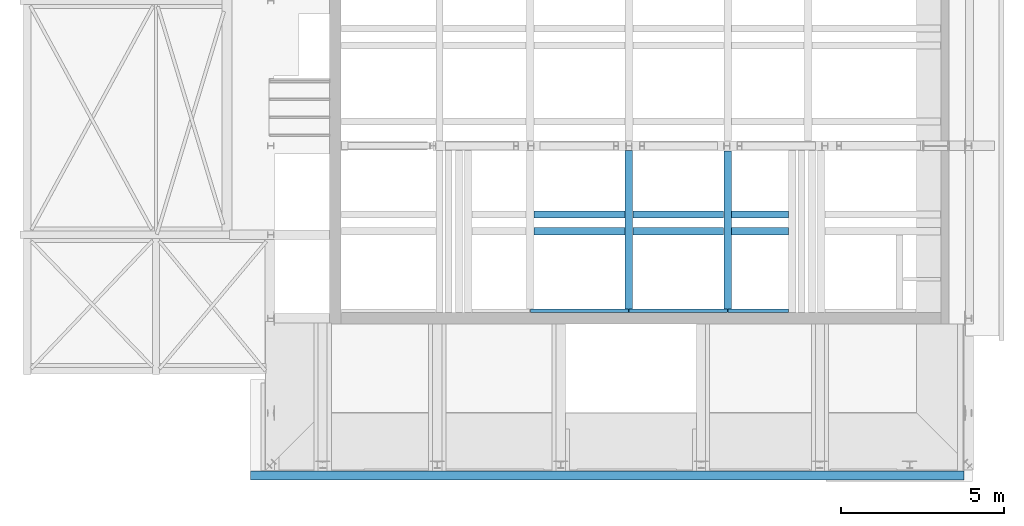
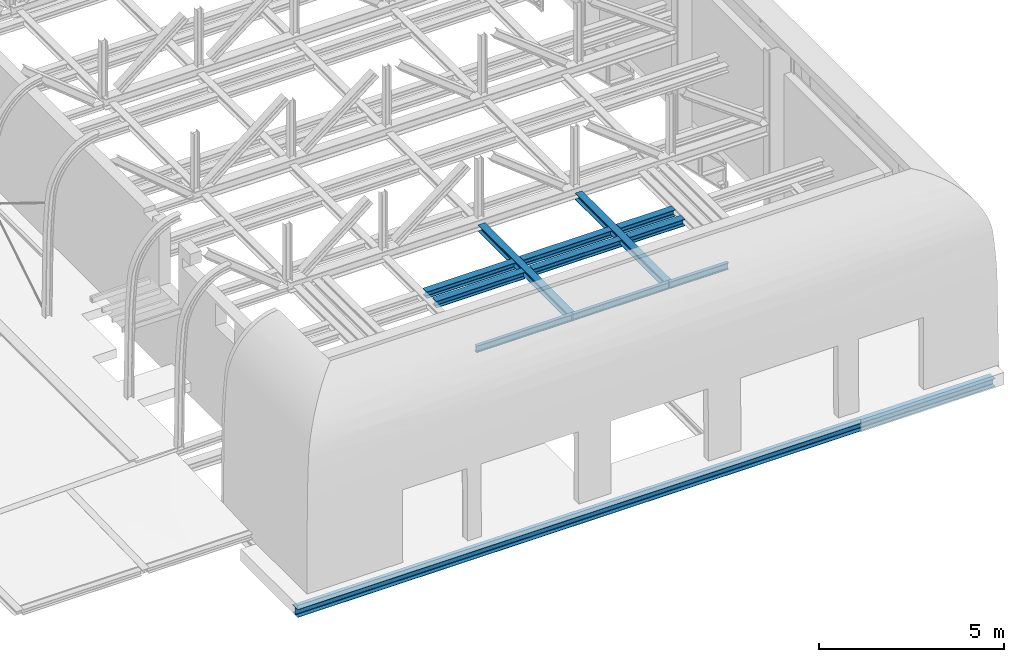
# One storey, part 10 of 29: 12 beams.
"""IFC2X3 building model written with IfcOpenShell, lengths in millimetres."""

from ifc_helpers import new_model, entity, si_unit, converted_unit, derived_unit, direction, frame, frame_2d, origin, place, context, subcontext, project, spatial, polyline, circle_curve, parameter, trimmed, segment, composite_curve, outline, extrude, material, type_object, element, save


model = new_model("IFC2X3")

# Units and contexts
model_context = context("Model", 3, precision=0.01, world=origin(), true_north=direction((6.12303176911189e-17, 1.0)))
body_context = subcontext(model_context, "Body", "Model", "MODEL_VIEW")
ifc_project = project(units=[si_unit("LENGTHUNIT", "METRE", prefix="MILLI"), si_unit("AREAUNIT", "SQUARE_METRE", prefix="MILLI"), si_unit("VOLUMEUNIT", "CUBIC_METRE"), converted_unit("PLANEANGLEUNIT", "DEGREE", entity("IfcRatioMeasure", 0.0174532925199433), si_unit("PLANEANGLEUNIT", "RADIAN"), dimensions=[0, 0, 0, 0, 0, 0, 0]), si_unit("MASSUNIT", "GRAM", prefix="KILO"), derived_unit("MASSDENSITYUNIT", [(si_unit("MASSUNIT", "GRAM", prefix="KILO"), 1), (si_unit("LENGTHUNIT", "METRE"), -3)]), derived_unit("MOMENTOFINERTIAUNIT", [(si_unit("LENGTHUNIT", "METRE"), 4)]), si_unit("TIMEUNIT", "SECOND"), si_unit("FREQUENCYUNIT", "HERTZ"), si_unit("THERMODYNAMICTEMPERATUREUNIT", "DEGREE_CELSIUS"), derived_unit("THERMALTRANSMITTANCEUNIT", [(si_unit("MASSUNIT", "GRAM", prefix="KILO"), 1), (si_unit("THERMODYNAMICTEMPERATUREUNIT", "KELVIN"), -1), (si_unit("TIMEUNIT", "SECOND"), -3)]), derived_unit("VOLUMETRICFLOWRATEUNIT", [(si_unit("LENGTHUNIT", "METRE"), 3), (si_unit("TIMEUNIT", "SECOND"), -1)]), si_unit("ELECTRICCURRENTUNIT", "AMPERE"), si_unit("ELECTRICVOLTAGEUNIT", "VOLT"), si_unit("POWERUNIT", "WATT"), si_unit("FORCEUNIT", "NEWTON", prefix="KILO"), si_unit("ILLUMINANCEUNIT", "LUX"), si_unit("LUMINOUSFLUXUNIT", "LUMEN"), si_unit("LUMINOUSINTENSITYUNIT", "CANDELA"), derived_unit("USERDEFINED", [(si_unit("MASSUNIT", "GRAM", prefix="KILO"), -1), (si_unit("LENGTHUNIT", "METRE"), -2), (si_unit("TIMEUNIT", "SECOND"), 3), (si_unit("LUMINOUSFLUXUNIT", "LUMEN"), 1)]), derived_unit("LINEARVELOCITYUNIT", [(si_unit("LENGTHUNIT", "METRE"), 1), (si_unit("TIMEUNIT", "SECOND"), -1)]), si_unit("PRESSUREUNIT", "PASCAL"), derived_unit("USERDEFINED", [(si_unit("LENGTHUNIT", "METRE"), -2), (si_unit("MASSUNIT", "GRAM", prefix="KILO"), 1), (si_unit("TIMEUNIT", "SECOND"), -2)]), derived_unit("LINEARFORCEUNIT", [(si_unit("MASSUNIT", "GRAM", prefix="KILO"), 1), (si_unit("LENGTHUNIT", "METRE"), 1), (si_unit("TIMEUNIT", "SECOND"), -2), (si_unit("LENGTHUNIT", "METRE"), -1)]), derived_unit("PLANARFORCEUNIT", [(si_unit("MASSUNIT", "GRAM", prefix="KILO"), 1), (si_unit("LENGTHUNIT", "METRE"), 1), (si_unit("TIMEUNIT", "SECOND"), -2), (si_unit("LENGTHUNIT", "METRE"), -2)])], contexts=[model_context])

# Site, building, storey
site_placement = place(None, origin())
site = spatial("IfcSite", under=ifc_project, at=site_placement, Name="Theater aan de Parade", CompositionType="ELEMENT")
building_placement = place(site_placement, origin())
building = spatial("IfcBuilding", under=site, at=building_placement, Name="Theater aan de Parade", CompositionType="ELEMENT")
storey_placement = place(building_placement, frame((0.0, 0.0, 20300.0)))
storey = spatial("IfcBuildingStorey", under=building, at=storey_placement, Name="05 vijfde verdieping", CompositionType="ELEMENT", Elevation=20300.0)

# Beams
ifc_material = material(Name="00_PBT_MAT_staal_S355")
beam_type_1 = type_object("IfcBeamType", Name="28_PBT_SF_staal_H-profiel:S355_HE220B", PredefinedType="NOTDEFINED")
beam_1_placement = place(storey_placement, frame((76509.4104367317, 19810.0002435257, 0.0), z_axis=(0.0, 0.0, 1.0), x_axis=(0.0, 1.0, 0.0)))
element("IfcBeam", 1, at=beam_1_placement, inside=storey, type_object=beam_type_1, material=ifc_material, Name="28_PBT_SF_staal_H-profiel:S355_HE220B", ObjectType="28_PBT_SF_staal_H-profiel:S355_HE220B", context=body_context, shape_type="SweptSolid", body=[
    extrude(outline(composite_curve([segment(polyline([(94.0, -110.0), (110.0, -110.0)]), True, "CONTINUOUS"), segment(polyline([(110.0, -110.0), (110.0, 110.0)]), True, "CONTINUOUS"), segment(polyline([(110.0, 110.0), (94.0, 110.0)]), True, "CONTINUOUS"), segment(polyline([(94.0, 110.0), (94.0, 22.7499999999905)]), True, "CONTINUOUS"), segment(trimmed(circle_curve(frame_2d((76.0, 22.7499999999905), x_axis=(1.0, 0.0)), 17.9999999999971), [parameter(269.999999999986)], [parameter(0.0)], True, "PARAMETER"), False, "CONTINUOUS"), segment(polyline([(76.0, 4.74999999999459), (-76.0, 4.74999999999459)]), True, "CONTINUOUS"), segment(trimmed(circle_curve(frame_2d((-76.0, 22.7499999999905), x_axis=(0.0, -1.0)), 17.9999999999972), [parameter(269.999999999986)], [parameter(0.0)], True, "PARAMETER"), False, "CONTINUOUS"), segment(polyline([(-94.0, 22.7499999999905), (-94.0, 110.0)]), True, "CONTINUOUS"), segment(polyline([(-94.0, 110.0), (-110.0, 110.0)]), True, "CONTINUOUS"), segment(polyline([(-110.0, 110.0), (-110.0, -110.0)]), True, "CONTINUOUS"), segment(polyline([(-110.0, -110.0), (-94.0, -110.0)]), True, "CONTINUOUS"), segment(polyline([(-94.0, -110.0), (-94.0, -22.7500000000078)]), True, "CONTINUOUS"), segment(trimmed(circle_curve(frame_2d((-76.0, -22.7500000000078), x_axis=(-1.0, 0.0)), 17.9999999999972), [parameter(269.999999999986)], [parameter(0.0)], True, "PARAMETER"), False, "CONTINUOUS"), segment(polyline([(-76.0, -4.75000000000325), (76.0, -4.75000000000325)]), True, "CONTINUOUS"), segment(trimmed(circle_curve(frame_2d((76.0, -22.7500000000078), x_axis=(0.0, 1.0)), 17.9999999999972), [parameter(269.999999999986)], [parameter(0.0)], True, "PARAMETER"), False, "CONTINUOUS"), segment(polyline([(94.0, -22.7500000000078), (94.0, -110.0)]), True, "CONTINUOUS")], self_intersect=False)), frame((0.0, 0.0, 2360.0), z_axis=(1.0, 0.0, 0.0), x_axis=(0.0, 0.0, -1.0)), (0.0, 0.0, 1.0), 4949.99975647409),
])
beam_2_placement = place(storey_placement, frame((79535.4618819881, 19825.0002435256, 0.0), z_axis=(0.0, 0.0, 1.0), x_axis=(0.0, 1.0, 0.0)))
element("IfcBeam", 2, at=beam_2_placement, inside=storey, type_object=beam_type_1, material=ifc_material, Name="28_PBT_SF_staal_H-profiel:S355_HE220B", ObjectType="28_PBT_SF_staal_H-profiel:S355_HE220B", context=body_context, shape_type="SweptSolid", body=[
    extrude(outline(composite_curve([segment(polyline([(94.0, -110.0), (110.0, -110.0)]), True, "CONTINUOUS"), segment(polyline([(110.0, -110.0), (110.0, 110.0)]), True, "CONTINUOUS"), segment(polyline([(110.0, 110.0), (94.0, 110.0)]), True, "CONTINUOUS"), segment(polyline([(94.0, 110.0), (94.0, 22.7500000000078)]), True, "CONTINUOUS"), segment(trimmed(circle_curve(frame_2d((76.0, 22.7500000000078), x_axis=(1.0, 0.0)), 17.9999999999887), [parameter(269.999999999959)], [parameter(0.0)], True, "PARAMETER"), False, "CONTINUOUS"), segment(polyline([(76.0, 4.74999999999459), (-76.0, 4.74999999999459)]), True, "CONTINUOUS"), segment(trimmed(circle_curve(frame_2d((-76.0, 22.7500000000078), x_axis=(0.0, -1.0)), 17.9999999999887), [parameter(269.999999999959)], [parameter(0.0)], True, "PARAMETER"), False, "CONTINUOUS"), segment(polyline([(-94.0, 22.7500000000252), (-94.0, 110.0)]), True, "CONTINUOUS"), segment(polyline([(-94.0, 110.0), (-110.0, 110.0)]), True, "CONTINUOUS"), segment(polyline([(-110.0, 110.0), (-110.0, -110.0)]), True, "CONTINUOUS"), segment(polyline([(-110.0, -110.0), (-94.0, -110.0)]), True, "CONTINUOUS"), segment(polyline([(-94.0, -110.0), (-94.0, -22.7499999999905)]), True, "CONTINUOUS"), segment(trimmed(circle_curve(frame_2d((-76.0, -22.7499999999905), x_axis=(-1.0, 0.0)), 17.9999999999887), [parameter(269.999999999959)], [parameter(0.0)], True, "PARAMETER"), False, "CONTINUOUS"), segment(polyline([(-76.0, -4.74999999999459), (76.0, -4.74999999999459)]), True, "CONTINUOUS"), segment(trimmed(circle_curve(frame_2d((76.0, -22.7499999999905), x_axis=(0.0, 1.0)), 17.9999999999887), [parameter(269.999999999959)], [parameter(0.0)], True, "PARAMETER"), False, "CONTINUOUS"), segment(polyline([(94.0, -22.7499999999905), (94.0, -110.0)]), True, "CONTINUOUS")], self_intersect=False)), frame((0.0, 0.0, 2360.0), z_axis=(1.0, 0.0, 0.0), x_axis=(0.0, 0.0, -1.0)), (0.0, 0.0, 1.0), 4919.99975647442),
])
beam_3_placement = place(storey_placement, frame((76509.4104367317, 22811.5, 0.0), z_axis=(0.0, 0.0, 1.0), x_axis=(-1.0, 0.0, 0.0)))
element("IfcBeam", 3, at=beam_3_placement, inside=storey, type_object=beam_type_1, material=ifc_material, Name="28_PBT_SF_staal_H-profiel:S355_HE220B", ObjectType="28_PBT_SF_staal_H-profiel:S355_HE220B", context=body_context, shape_type="SweptSolid", body=[
    extrude(outline(composite_curve([segment(polyline([(94.0, -110.0), (110.0, -110.0)]), True, "CONTINUOUS"), segment(polyline([(110.0, -110.0), (110.0, 110.0)]), True, "CONTINUOUS"), segment(polyline([(110.0, 110.0), (94.0, 110.0)]), True, "CONTINUOUS"), segment(polyline([(94.0, 110.0), (94.0, 22.7500000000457)]), True, "CONTINUOUS"), segment(trimmed(circle_curve(frame_2d((76.0, 22.750000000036), x_axis=(1.0, 0.0)), 18.0000000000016), [parameter(270.0)], [parameter(0.0)], True, "PARAMETER"), False, "CONTINUOUS"), segment(polyline([(76.0, 4.7500000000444), (-76.0, 4.74999999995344)]), True, "CONTINUOUS"), segment(trimmed(circle_curve(frame_2d((-76.0, 22.7499999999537), x_axis=(0.0, -1.0)), 18.0000000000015), [parameter(270.0)], [parameter(0.0)], True, "PARAMETER"), False, "CONTINUOUS"), segment(polyline([(-94.0, 22.7499999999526), (-94.0, 110.0)]), True, "CONTINUOUS"), segment(polyline([(-94.0, 110.0), (-110.0, 110.0)]), True, "CONTINUOUS"), segment(polyline([(-110.0, 110.0), (-110.0, -110.0)]), True, "CONTINUOUS"), segment(polyline([(-110.0, -110.0), (-94.0, -110.0)]), True, "CONTINUOUS"), segment(polyline([(-94.0, -110.0), (-94.0, -22.7500000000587)]), True, "CONTINUOUS"), segment(trimmed(circle_curve(frame_2d((-76.0, -22.750000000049), x_axis=(-1.0, 0.0)), 17.9999999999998), [parameter(270.0)], [parameter(0.0)], True, "PARAMETER"), False, "CONTINUOUS"), segment(polyline([(-76.0, -4.75000000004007), (76.0, -4.74999999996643)]), True, "CONTINUOUS"), segment(trimmed(circle_curve(frame_2d((76.0, -22.7499999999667), x_axis=(0.0, 1.0)), 18.0000000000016), [parameter(270.0)], [parameter(0.0)], True, "PARAMETER"), False, "CONTINUOUS"), segment(polyline([(94.0, -22.7499999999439), (94.0, -110.0)]), True, "CONTINUOUS")], self_intersect=False)), frame((122.699999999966, 0.0, 2360.0), z_axis=(1.0, 0.0, 0.0), x_axis=(0.0, 0.0, -1.0)), (0.0, 0.0, 1.0), 2780.65144525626),
])
beam_4_placement = place(storey_placement, frame((79535.461881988, 22811.5, 0.0), z_axis=(0.0, 0.0, 1.0), x_axis=(-1.0, 0.0, 0.0)))
element("IfcBeam", 4, at=beam_4_placement, inside=storey, type_object=beam_type_1, material=ifc_material, Name="28_PBT_SF_staal_H-profiel:S355_HE220B", ObjectType="28_PBT_SF_staal_H-profiel:S355_HE220B", context=body_context, shape_type="SweptSolid", body=[
    extrude(outline(composite_curve([segment(polyline([(94.0, -110.0), (110.0, -110.0)]), True, "CONTINUOUS"), segment(polyline([(110.0, -110.0), (110.0, 110.0)]), True, "CONTINUOUS"), segment(polyline([(110.0, 110.0), (94.0, 110.0)]), True, "CONTINUOUS"), segment(polyline([(94.0, 110.0), (94.0, 22.7500000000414)]), True, "CONTINUOUS"), segment(trimmed(circle_curve(frame_2d((76.0, 22.7500000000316), x_axis=(1.0, 0.0)), 18.0000000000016), [parameter(270.0)], [parameter(0.0)], True, "PARAMETER"), False, "CONTINUOUS"), segment(polyline([(76.0, 4.75000000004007), (-76.0, 4.74999999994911)]), True, "CONTINUOUS"), segment(trimmed(circle_curve(frame_2d((-76.0, 22.7499999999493), x_axis=(0.0, -1.0)), 18.0000000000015), [parameter(270.0)], [parameter(0.0)], True, "PARAMETER"), False, "CONTINUOUS"), segment(polyline([(-94.0, 22.7499999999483), (-94.0, 110.0)]), True, "CONTINUOUS"), segment(polyline([(-94.0, 110.0), (-110.0, 110.0)]), True, "CONTINUOUS"), segment(polyline([(-110.0, 110.0), (-110.0, -110.0)]), True, "CONTINUOUS"), segment(polyline([(-110.0, -110.0), (-94.0, -110.0)]), True, "CONTINUOUS"), segment(polyline([(-94.0, -110.0), (-94.0, -22.7500000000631)]), True, "CONTINUOUS"), segment(trimmed(circle_curve(frame_2d((-76.0, -22.7500000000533), x_axis=(-1.0, 0.0)), 17.9999999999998), [parameter(270.0)], [parameter(0.0)], True, "PARAMETER"), False, "CONTINUOUS"), segment(polyline([(-76.0, -4.7500000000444), (76.0, -4.74999999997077)]), True, "CONTINUOUS"), segment(trimmed(circle_curve(frame_2d((76.0, -22.749999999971), x_axis=(0.0, 1.0)), 18.0000000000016), [parameter(270.0)], [parameter(0.0)], True, "PARAMETER"), False, "CONTINUOUS"), segment(polyline([(94.0, -22.7499999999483), (94.0, -110.0)]), True, "CONTINUOUS")], self_intersect=False)), frame((122.699999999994, 0.0, 2360.0), z_axis=(1.0, 0.0, 0.0), x_axis=(0.0, 0.0, -1.0)), (0.0, 0.0, 1.0), 2780.65144525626),
])
beam_5_placement = place(storey_placement, frame((81510.0, 22811.5, 0.0), z_axis=(0.0, 0.0, 1.0), x_axis=(-1.0, 0.0, 0.0)))
element("IfcBeam", 5, at=beam_5_placement, inside=storey, type_object=beam_type_1, material=ifc_material, Name="28_PBT_SF_staal_H-profiel:S355_HE220B", ObjectType="28_PBT_SF_staal_H-profiel:S355_HE220B", context=body_context, shape_type="SweptSolid", body=[
    extrude(outline(composite_curve([segment(polyline([(94.0, -110.0), (110.0, -110.0)]), True, "CONTINUOUS"), segment(polyline([(110.0, -110.0), (110.0, 110.0)]), True, "CONTINUOUS"), segment(polyline([(110.0, 110.0), (94.0, 110.0)]), True, "CONTINUOUS"), segment(polyline([(94.0, 110.0), (94.0, 22.7500000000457)]), True, "CONTINUOUS"), segment(trimmed(circle_curve(frame_2d((76.0, 22.750000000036), x_axis=(1.0, 0.0)), 18.0000000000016), [parameter(270.0)], [parameter(0.0)], True, "PARAMETER"), False, "CONTINUOUS"), segment(polyline([(76.0, 4.7500000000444), (-76.0, 4.74999999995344)]), True, "CONTINUOUS"), segment(trimmed(circle_curve(frame_2d((-76.0, 22.7499999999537), x_axis=(0.0, -1.0)), 18.0000000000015), [parameter(270.0)], [parameter(0.0)], True, "PARAMETER"), False, "CONTINUOUS"), segment(polyline([(-94.0, 22.7499999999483), (-94.0, 110.0)]), True, "CONTINUOUS"), segment(polyline([(-94.0, 110.0), (-110.0, 110.0)]), True, "CONTINUOUS"), segment(polyline([(-110.0, 110.0), (-110.0, -110.0)]), True, "CONTINUOUS"), segment(polyline([(-110.0, -110.0), (-94.0, -110.0)]), True, "CONTINUOUS"), segment(polyline([(-94.0, -110.0), (-94.0, -22.7500000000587)]), True, "CONTINUOUS"), segment(trimmed(circle_curve(frame_2d((-76.0, -22.750000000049), x_axis=(-1.0, 0.0)), 17.9999999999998), [parameter(270.0)], [parameter(0.0)], True, "PARAMETER"), False, "CONTINUOUS"), segment(polyline([(-76.0, -4.75000000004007), (76.0, -4.74999999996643)]), True, "CONTINUOUS"), segment(trimmed(circle_curve(frame_2d((76.0, -22.7499999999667), x_axis=(0.0, 1.0)), 18.0000000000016), [parameter(270.0)], [parameter(0.0)], True, "PARAMETER"), False, "CONTINUOUS"), segment(polyline([(94.0, -22.7499999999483), (94.0, -110.0)]), True, "CONTINUOUS")], self_intersect=False)), frame((122.700000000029, 0.0, 2360.0), z_axis=(1.0, 0.0, 0.0), x_axis=(0.0, 0.0, -1.0)), (0.0, 0.0, 1.0), 1729.13811801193),
])
beam_6_placement = place(storey_placement, frame((76509.4104367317, 22297.4998, 0.0), z_axis=(0.0, 0.0, 1.0), x_axis=(-1.0, 0.0, 0.0)))
element("IfcBeam", 6, at=beam_6_placement, inside=storey, type_object=beam_type_1, material=ifc_material, Name="28_PBT_SF_staal_H-profiel:S355_HE220B", ObjectType="28_PBT_SF_staal_H-profiel:S355_HE220B", context=body_context, shape_type="SweptSolid", body=[
    extrude(outline(composite_curve([segment(polyline([(94.0, -110.0), (110.0, -110.0)]), True, "CONTINUOUS"), segment(polyline([(110.0, -110.0), (110.0, 110.0)]), True, "CONTINUOUS"), segment(polyline([(110.0, 110.0), (94.0, 110.0)]), True, "CONTINUOUS"), segment(polyline([(94.0, 110.0), (94.0, 22.7500000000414)]), True, "CONTINUOUS"), segment(trimmed(circle_curve(frame_2d((76.0, 22.7500000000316), x_axis=(1.0, 0.0)), 18.0000000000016), [parameter(270.0)], [parameter(0.0)], True, "PARAMETER"), False, "CONTINUOUS"), segment(polyline([(76.0, 4.75000000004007), (-76.0, 4.74999999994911)]), True, "CONTINUOUS"), segment(trimmed(circle_curve(frame_2d((-76.0, 22.7499999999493), x_axis=(0.0, -1.0)), 18.0000000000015), [parameter(270.0)], [parameter(0.0)], True, "PARAMETER"), False, "CONTINUOUS"), segment(polyline([(-94.0, 22.7499999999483), (-94.0, 110.0)]), True, "CONTINUOUS"), segment(polyline([(-94.0, 110.0), (-110.0, 110.0)]), True, "CONTINUOUS"), segment(polyline([(-110.0, 110.0), (-110.0, -110.0)]), True, "CONTINUOUS"), segment(polyline([(-110.0, -110.0), (-94.0, -110.0)]), True, "CONTINUOUS"), segment(polyline([(-94.0, -110.0), (-94.0, -22.7500000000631)]), True, "CONTINUOUS"), segment(trimmed(circle_curve(frame_2d((-76.0, -22.7500000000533), x_axis=(-1.0, 0.0)), 17.9999999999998), [parameter(270.0)], [parameter(0.0)], True, "PARAMETER"), False, "CONTINUOUS"), segment(polyline([(-76.0, -4.7500000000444), (76.0, -4.74999999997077)]), True, "CONTINUOUS"), segment(trimmed(circle_curve(frame_2d((76.0, -22.749999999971), x_axis=(0.0, 1.0)), 18.0000000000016), [parameter(270.0)], [parameter(0.0)], True, "PARAMETER"), False, "CONTINUOUS"), segment(polyline([(94.0, -22.7499999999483), (94.0, -110.0)]), True, "CONTINUOUS")], self_intersect=False)), frame((122.699999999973, 0.0, 2360.0), z_axis=(1.0, 0.0, 0.0), x_axis=(0.0, 0.0, -1.0)), (0.0, 0.0, 1.0), 2780.65144525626),
])
beam_7_placement = place(storey_placement, frame((79535.461881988, 22297.4998, 0.0), z_axis=(0.0, 0.0, 1.0), x_axis=(-1.0, 0.0, 0.0)))
element("IfcBeam", 7, at=beam_7_placement, inside=storey, type_object=beam_type_1, material=ifc_material, Name="28_PBT_SF_staal_H-profiel:S355_HE220B", ObjectType="28_PBT_SF_staal_H-profiel:S355_HE220B", context=body_context, shape_type="SweptSolid", body=[
    extrude(outline(composite_curve([segment(polyline([(94.0, -110.0), (110.0, -110.0)]), True, "CONTINUOUS"), segment(polyline([(110.0, -110.0), (110.0, 110.0)]), True, "CONTINUOUS"), segment(polyline([(110.0, 110.0), (94.0, 110.0)]), True, "CONTINUOUS"), segment(polyline([(94.0, 110.0), (94.0, 22.7500000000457)]), True, "CONTINUOUS"), segment(trimmed(circle_curve(frame_2d((76.0, 22.750000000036), x_axis=(1.0, 0.0)), 18.0000000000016), [parameter(270.0)], [parameter(0.0)], True, "PARAMETER"), False, "CONTINUOUS"), segment(polyline([(76.0, 4.7500000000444), (-76.0, 4.74999999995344)]), True, "CONTINUOUS"), segment(trimmed(circle_curve(frame_2d((-76.0, 22.7499999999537), x_axis=(0.0, -1.0)), 18.0000000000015), [parameter(270.0)], [parameter(0.0)], True, "PARAMETER"), False, "CONTINUOUS"), segment(polyline([(-94.0, 22.7499999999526), (-94.0, 110.0)]), True, "CONTINUOUS"), segment(polyline([(-94.0, 110.0), (-110.0, 110.0)]), True, "CONTINUOUS"), segment(polyline([(-110.0, 110.0), (-110.0, -110.0)]), True, "CONTINUOUS"), segment(polyline([(-110.0, -110.0), (-94.0, -110.0)]), True, "CONTINUOUS"), segment(polyline([(-94.0, -110.0), (-94.0, -22.7500000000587)]), True, "CONTINUOUS"), segment(trimmed(circle_curve(frame_2d((-76.0, -22.750000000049), x_axis=(-1.0, 0.0)), 17.9999999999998), [parameter(270.0)], [parameter(0.0)], True, "PARAMETER"), False, "CONTINUOUS"), segment(polyline([(-76.0, -4.75000000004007), (76.0, -4.74999999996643)]), True, "CONTINUOUS"), segment(trimmed(circle_curve(frame_2d((76.0, -22.7499999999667), x_axis=(0.0, 1.0)), 18.0000000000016), [parameter(270.0)], [parameter(0.0)], True, "PARAMETER"), False, "CONTINUOUS"), segment(polyline([(94.0, -22.7499999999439), (94.0, -110.0)]), True, "CONTINUOUS")], self_intersect=False)), frame((122.699999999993, 0.0, 2360.0), z_axis=(1.0, 0.0, 0.0), x_axis=(0.0, 0.0, -1.0)), (0.0, 0.0, 1.0), 2780.65144525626),
])
beam_8_placement = place(storey_placement, frame((81510.0, 22297.4998, 0.0), z_axis=(0.0, 0.0, 1.0), x_axis=(-1.0, 0.0, 0.0)))
element("IfcBeam", 8, at=beam_8_placement, inside=storey, type_object=beam_type_1, material=ifc_material, Name="28_PBT_SF_staal_H-profiel:S355_HE220B", ObjectType="28_PBT_SF_staal_H-profiel:S355_HE220B", context=body_context, shape_type="SweptSolid", body=[
    extrude(outline(composite_curve([segment(polyline([(94.0, -110.0), (110.0, -110.0)]), True, "CONTINUOUS"), segment(polyline([(110.0, -110.0), (110.0, 110.0)]), True, "CONTINUOUS"), segment(polyline([(110.0, 110.0), (94.0, 110.0)]), True, "CONTINUOUS"), segment(polyline([(94.0, 110.0), (94.0, 22.7500000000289)]), True, "CONTINUOUS"), segment(trimmed(circle_curve(frame_2d((76.0, 22.7500000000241), x_axis=(1.0, 0.0)), 18.0000000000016), [parameter(270.0)], [parameter(0.0)], True, "PARAMETER"), False, "CONTINUOUS"), segment(polyline([(76.0, 4.75000000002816), (-76.0, 4.74999999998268)]), True, "CONTINUOUS"), segment(trimmed(circle_curve(frame_2d((-76.0, 22.7499999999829), x_axis=(0.0, -1.0)), 18.0000000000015), [parameter(270.0)], [parameter(0.0)], True, "PARAMETER"), False, "CONTINUOUS"), segment(polyline([(-94.0, 22.749999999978), (-94.0, 110.0)]), True, "CONTINUOUS"), segment(polyline([(-94.0, 110.0), (-110.0, 110.0)]), True, "CONTINUOUS"), segment(polyline([(-110.0, 110.0), (-110.0, -110.0)]), True, "CONTINUOUS"), segment(polyline([(-110.0, -110.0), (-94.0, -110.0)]), True, "CONTINUOUS"), segment(polyline([(-94.0, -110.0), (-94.0, -22.7500000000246)]), True, "CONTINUOUS"), segment(trimmed(circle_curve(frame_2d((-76.0, -22.7500000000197), x_axis=(-1.0, 0.0)), 17.9999999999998), [parameter(270.0)], [parameter(0.0)], True, "PARAMETER"), False, "CONTINUOUS"), segment(polyline([(-76.0, -4.75000000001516), (76.0, -4.74999999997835)]), True, "CONTINUOUS"), segment(trimmed(circle_curve(frame_2d((76.0, -22.7499999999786), x_axis=(0.0, 1.0)), 18.0000000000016), [parameter(270.0)], [parameter(0.0)], True, "PARAMETER"), False, "CONTINUOUS"), segment(polyline([(94.0, -22.7499999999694), (94.0, -110.0)]), True, "CONTINUOUS")], self_intersect=False)), frame((122.70000000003, 0.0, 2360.0), z_axis=(1.0, 0.0, 0.0), x_axis=(0.0, 0.0, -1.0)), (0.0, 0.0, 1.0), 1729.13811801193),
])
beam_type_2 = type_object("IfcBeamType", Name="28_PBT_SF_staal_H-profiel (void):S355_HE280A", PredefinedType="NOTDEFINED")
beam_9_placement = place(storey_placement, frame((86766.0, 14822.0, 0.0), z_axis=(0.0, 0.0, 1.0), x_axis=(-1.0, 0.0, 0.0)))
element("IfcBeam", 9, at=beam_9_placement, inside=storey, type_object=beam_type_2, material=ifc_material, Name="28_PBT_SF_staal_H-profiel (void):S355_HE280A", ObjectType="28_PBT_SF_staal_H-profiel (void):S355_HE280A", context=body_context, shape_type="SweptSolid", body=[
    extrude(outline(composite_curve([segment(polyline([(122.0, -140.0), (135.0, -140.0)]), True, "CONTINUOUS"), segment(polyline([(135.0, -140.0), (135.0, 140.0)]), True, "CONTINUOUS"), segment(polyline([(135.0, 140.0), (122.0, 140.0)]), True, "CONTINUOUS"), segment(polyline([(122.0, 140.0), (122.0, 28.0)]), True, "CONTINUOUS"), segment(trimmed(circle_curve(frame_2d((98.0, 28.0), x_axis=(1.0, 0.0)), 23.9999999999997), [parameter(270.0)], [parameter(0.0)], True, "PARAMETER"), False, "CONTINUOUS"), segment(polyline([(98.0, 4.0), (-98.0, 4.0)]), True, "CONTINUOUS"), segment(trimmed(circle_curve(frame_2d((-98.0, 28.0), x_axis=(0.0, -1.0)), 23.9999999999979), [parameter(269.999999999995)], [parameter(0.0)], True, "PARAMETER"), False, "CONTINUOUS"), segment(polyline([(-122.0, 28.0), (-122.0, 140.0)]), True, "CONTINUOUS"), segment(polyline([(-122.0, 140.0), (-135.0, 140.0)]), True, "CONTINUOUS"), segment(polyline([(-135.0, 140.0), (-135.0, -140.0)]), True, "CONTINUOUS"), segment(polyline([(-135.0, -140.0), (-122.0, -140.0)]), True, "CONTINUOUS"), segment(polyline([(-122.0, -140.0), (-122.0, -28.0)]), True, "CONTINUOUS"), segment(trimmed(circle_curve(frame_2d((-98.0, -28.0), x_axis=(-1.0, 0.0)), 23.9999999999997), [parameter(270.0)], [parameter(0.0)], True, "PARAMETER"), False, "CONTINUOUS"), segment(polyline([(-98.0, -4.0), (98.0, -4.0)]), True, "CONTINUOUS"), segment(trimmed(circle_curve(frame_2d((98.0, -28.0), x_axis=(0.0, 1.0)), 23.9999999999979), [parameter(269.999999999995)], [parameter(0.0)], True, "PARAMETER"), False, "CONTINUOUS"), segment(polyline([(122.0, -28.0), (122.0, -140.0)]), True, "CONTINUOUS")], self_intersect=False)), frame((0.0, 0.0, -265.0), z_axis=(1.0, 0.0, 0.0), x_axis=(0.0, 0.0, -1.0)), (0.0, 0.0, 1.0), 21831.6919122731),
])
beam_type_3 = type_object("IfcBeamType", Name="28_PBT_SF_staal_IPE-profiel:S355_IPE220", PredefinedType="NOTDEFINED")
beam_10_placement = place(storey_placement, frame((81510.0, 19865.0002435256, 0.0), z_axis=(0.0, 0.0, 1.0), x_axis=(-1.0, 0.0, 0.0)))
element("IfcBeam", 10, at=beam_10_placement, inside=storey, type_object=beam_type_3, material=ifc_material, Name="28_PBT_SF_staal_IPE-profiel:S355_IPE220", ObjectType="28_PBT_SF_staal_IPE-profiel:S355_IPE220", context=body_context, shape_type="SweptSolid", body=[
    extrude(outline(composite_curve([segment(polyline([(100.800000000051, -55.0), (110.0, -55.0)]), True, "CONTINUOUS"), segment(polyline([(110.0, -55.0), (110.0, 55.0)]), True, "CONTINUOUS"), segment(polyline([(110.0, 55.0), (100.799999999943, 55.0)]), True, "CONTINUOUS"), segment(polyline([(100.799999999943, 55.0), (100.799999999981, 14.9500000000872)]), True, "CONTINUOUS"), segment(trimmed(circle_curve(frame_2d((88.7999999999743, 14.9500000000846), x_axis=(1.0, 0.0)), 12.0000000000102), [parameter(270.000000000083)], [parameter(0.0)], True, "PARAMETER"), False, "CONTINUOUS"), segment(polyline([(88.7999999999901, 2.95000000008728), (-88.8000000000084, 2.94999999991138)]), True, "CONTINUOUS"), segment(trimmed(circle_curve(frame_2d((-88.8000000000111, 14.9499999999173), x_axis=(0.0, -1.0)), 12.0000000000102), [parameter(270.000000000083)], [parameter(0.0)], True, "PARAMETER"), False, "CONTINUOUS"), segment(polyline([(-100.800000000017, 14.949999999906), (-100.800000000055, 55.0)]), True, "CONTINUOUS"), segment(polyline([(-100.800000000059, 55.0), (-110.0, 55.0)]), True, "CONTINUOUS"), segment(polyline([(-110.0, 55.0), (-110.0, -55.0)]), True, "CONTINUOUS"), segment(polyline([(-110.0, -55.0), (-100.799999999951, -55.0)]), True, "CONTINUOUS"), segment(polyline([(-100.799999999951, -55.0), (-100.799999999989, -14.9500000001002)]), True, "CONTINUOUS"), segment(trimmed(circle_curve(frame_2d((-88.7999999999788, -14.9500000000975), x_axis=(-1.0, 0.0)), 12.0000000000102), [parameter(270.000000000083)], [parameter(0.0)], True, "PARAMETER"), False, "CONTINUOUS"), segment(polyline([(-88.7999999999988, -2.95000000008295), (88.8000000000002, -2.94999999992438)]), True, "CONTINUOUS"), segment(trimmed(circle_curve(frame_2d((88.8000000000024, -14.9499999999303), x_axis=(0.0, 1.0)), 12.0000000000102), [parameter(270.000000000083)], [parameter(0.0)], True, "PARAMETER"), False, "CONTINUOUS"), segment(polyline([(100.800000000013, -14.9499999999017), (100.800000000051, -55.0)]), True, "CONTINUOUS")], self_intersect=False)), frame((122.700000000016, 0.0, 2360.0), z_axis=(1.0, 0.0, 0.0), x_axis=(0.0, 0.0, -1.0)), (0.0, 0.0, 1.0), 1839.13811740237),
])
beam_11_placement = place(storey_placement, frame((76509.4104367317, 19865.0002435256, 0.0), z_axis=(0.0, 0.0, 1.0), x_axis=(-1.0, 0.0, 0.0)))
element("IfcBeam", 11, at=beam_11_placement, inside=storey, type_object=beam_type_3, material=ifc_material, Name="28_PBT_SF_staal_IPE-profiel:S355_IPE220", ObjectType="28_PBT_SF_staal_IPE-profiel:S355_IPE220", context=body_context, shape_type="SweptSolid", body=[
    extrude(outline(composite_curve([segment(polyline([(100.800000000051, -55.0), (110.0, -55.0)]), True, "CONTINUOUS"), segment(polyline([(110.0, -55.0), (110.0, 55.0)]), True, "CONTINUOUS"), segment(polyline([(110.0, 55.0), (100.799999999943, 55.0)]), True, "CONTINUOUS"), segment(polyline([(100.799999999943, 55.0), (100.799999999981, 14.9500000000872)]), True, "CONTINUOUS"), segment(trimmed(circle_curve(frame_2d((88.7999999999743, 14.9500000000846), x_axis=(1.0, 0.0)), 12.0000000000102), [parameter(270.000000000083)], [parameter(0.0)], True, "PARAMETER"), False, "CONTINUOUS"), segment(polyline([(88.7999999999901, 2.95000000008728), (-88.8000000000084, 2.94999999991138)]), True, "CONTINUOUS"), segment(trimmed(circle_curve(frame_2d((-88.8000000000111, 14.9499999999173), x_axis=(0.0, -1.0)), 12.0000000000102), [parameter(270.000000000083)], [parameter(0.0)], True, "PARAMETER"), False, "CONTINUOUS"), segment(polyline([(-100.800000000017, 14.949999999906), (-100.800000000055, 55.0)]), True, "CONTINUOUS"), segment(polyline([(-100.800000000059, 55.0), (-110.0, 55.0)]), True, "CONTINUOUS"), segment(polyline([(-110.0, 55.0), (-110.0, -55.0)]), True, "CONTINUOUS"), segment(polyline([(-110.0, -55.0), (-100.799999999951, -55.0)]), True, "CONTINUOUS"), segment(polyline([(-100.799999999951, -55.0), (-100.799999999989, -14.9500000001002)]), True, "CONTINUOUS"), segment(trimmed(circle_curve(frame_2d((-88.7999999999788, -14.9500000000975), x_axis=(-1.0, 0.0)), 12.0000000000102), [parameter(270.000000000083)], [parameter(0.0)], True, "PARAMETER"), False, "CONTINUOUS"), segment(polyline([(-88.7999999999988, -2.95000000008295), (88.8000000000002, -2.94999999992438)]), True, "CONTINUOUS"), segment(trimmed(circle_curve(frame_2d((88.8000000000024, -14.9499999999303), x_axis=(0.0, 1.0)), 12.0000000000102), [parameter(270.000000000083)], [parameter(0.0)], True, "PARAMETER"), False, "CONTINUOUS"), segment(polyline([(100.800000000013, -14.9499999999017), (100.800000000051, -55.0)]), True, "CONTINUOUS")], self_intersect=False)), frame((12.7000006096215, 0.0, 2360.0), z_axis=(1.0, 0.0, 0.0), x_axis=(0.0, 0.0, -1.0)), (0.0, 0.0, 1.0), 3000.6514440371),
])
beam_12_placement = place(storey_placement, frame((79535.4618819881, 19865.0002435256, 0.0), z_axis=(0.0, 0.0, 1.0), x_axis=(-1.0, 0.0, 0.0)))
element("IfcBeam", 12, at=beam_12_placement, inside=storey, type_object=beam_type_3, material=ifc_material, Name="28_PBT_SF_staal_IPE-profiel:S355_IPE220", ObjectType="28_PBT_SF_staal_IPE-profiel:S355_IPE220", context=body_context, shape_type="SweptSolid", body=[
    extrude(outline(composite_curve([segment(polyline([(100.800000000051, -55.0), (110.0, -55.0)]), True, "CONTINUOUS"), segment(polyline([(110.0, -55.0), (110.0, 55.0)]), True, "CONTINUOUS"), segment(polyline([(110.0, 55.0), (100.799999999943, 55.0)]), True, "CONTINUOUS"), segment(polyline([(100.799999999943, 55.0), (100.799999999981, 14.9500000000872)]), True, "CONTINUOUS"), segment(trimmed(circle_curve(frame_2d((88.7999999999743, 14.9500000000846), x_axis=(1.0, 0.0)), 12.0000000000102), [parameter(270.000000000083)], [parameter(0.0)], True, "PARAMETER"), False, "CONTINUOUS"), segment(polyline([(88.7999999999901, 2.95000000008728), (-88.8000000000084, 2.94999999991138)]), True, "CONTINUOUS"), segment(trimmed(circle_curve(frame_2d((-88.8000000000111, 14.9499999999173), x_axis=(0.0, -1.0)), 12.0000000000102), [parameter(270.000000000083)], [parameter(0.0)], True, "PARAMETER"), False, "CONTINUOUS"), segment(polyline([(-100.800000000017, 14.949999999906), (-100.800000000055, 55.0)]), True, "CONTINUOUS"), segment(polyline([(-100.800000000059, 55.0), (-110.0, 55.0)]), True, "CONTINUOUS"), segment(polyline([(-110.0, 55.0), (-110.0, -55.0)]), True, "CONTINUOUS"), segment(polyline([(-110.0, -55.0), (-100.799999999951, -55.0)]), True, "CONTINUOUS"), segment(polyline([(-100.799999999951, -55.0), (-100.799999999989, -14.9500000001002)]), True, "CONTINUOUS"), segment(trimmed(circle_curve(frame_2d((-88.7999999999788, -14.9500000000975), x_axis=(-1.0, 0.0)), 12.0000000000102), [parameter(270.000000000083)], [parameter(0.0)], True, "PARAMETER"), False, "CONTINUOUS"), segment(polyline([(-88.7999999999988, -2.95000000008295), (88.8000000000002, -2.94999999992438)]), True, "CONTINUOUS"), segment(trimmed(circle_curve(frame_2d((88.8000000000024, -14.9499999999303), x_axis=(0.0, 1.0)), 12.0000000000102), [parameter(270.000000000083)], [parameter(0.0)], True, "PARAMETER"), False, "CONTINUOUS"), segment(polyline([(100.800000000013, -14.9499999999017), (100.800000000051, -55.0)]), True, "CONTINUOUS")], self_intersect=False)), frame((12.7000006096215, 0.0, 2360.0), z_axis=(1.0, 0.0, 0.0), x_axis=(0.0, 0.0, -1.0)), (0.0, 0.0, 1.0), 3000.65144403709),
])

save(model, "model.ifc")
